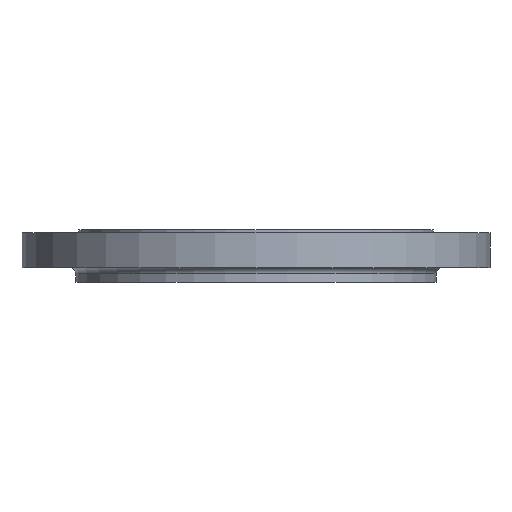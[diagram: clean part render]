
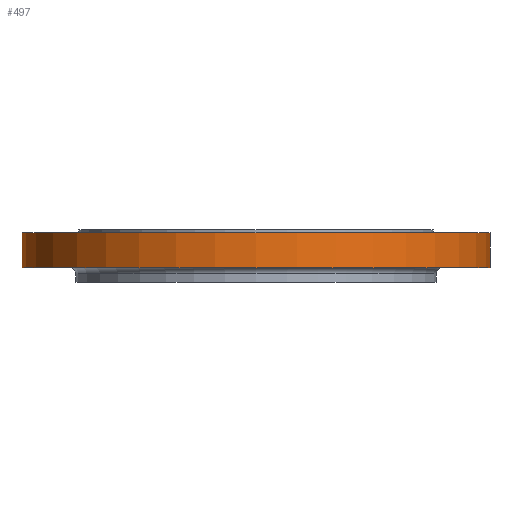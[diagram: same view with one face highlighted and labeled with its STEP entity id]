
A CAD part, front view. The second image highlights one B-rep face of the part: STEP entity #497.
In plain terms, the highlighted cylindrical face has radius 445 mm (diameter 890 mm), a partial arc.
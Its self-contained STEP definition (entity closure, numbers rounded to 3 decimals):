
#102 = CARTESIAN_POINT ( 'NONE',  ( -445., 0., -5.5 ) ) ;
#132 = CARTESIAN_POINT ( 'NONE',  ( -445., 0., -72. ) ) ;
#138 = DIRECTION ( 'NONE',  ( 0., 0., -1. ) ) ;
#274 = CARTESIAN_POINT ( 'NONE',  ( 445., 0., -5.5 ) ) ;
#435 = DIRECTION ( 'NONE',  ( 1., 0., 0. ) ) ;
#436 = DIRECTION ( 'NONE',  ( 0., 0., 1. ) ) ;
#438 = CARTESIAN_POINT ( 'NONE',  ( 0., 0., -72. ) ) ;
#473 = CARTESIAN_POINT ( 'NONE',  ( 445., 0., -72. ) ) ;
#480 = VECTOR ( 'NONE', #1453, 1000. ) ;
#484 = VECTOR ( 'NONE', #923, 1000. ) ;
#497 = ADVANCED_FACE ( 'NONE', ( #888 ), #885, .T. ) ;
#692 = CIRCLE ( 'NONE', #1940, 445. ) ;
#751 = CARTESIAN_POINT ( 'NONE',  ( 0., 0., -5.5 ) ) ;
#847 = LINE ( 'NONE', #910, #484 ) ;
#867 = AXIS2_PLACEMENT_3D ( 'NONE', #884, #881, #880 ) ;
#880 = DIRECTION ( 'NONE',  ( 1., 0., 0. ) ) ;
#881 = DIRECTION ( 'NONE',  ( 0., 0., 1. ) ) ;
#884 = CARTESIAN_POINT ( 'NONE',  ( 0., 0., -150. ) ) ;
#885 = CYLINDRICAL_SURFACE ( 'NONE', #867, 445. ) ;
#888 = FACE_OUTER_BOUND ( 'NONE', #1503, .T. ) ;
#910 = CARTESIAN_POINT ( 'NONE',  ( 445., 0., -150. ) ) ;
#923 = DIRECTION ( 'NONE',  ( 0., 0., 1. ) ) ;
#1060 = AXIS2_PLACEMENT_3D ( 'NONE', #438, #436, #435 ) ;
#1089 = CIRCLE ( 'NONE', #1060, 445. ) ;
#1268 = DIRECTION ( 'NONE',  ( -1., 0., 0. ) ) ;
#1284 = ORIENTED_EDGE ( 'NONE', *, *, #1984, .T. ) ;
#1285 = ORIENTED_EDGE ( 'NONE', *, *, #1864, .T. ) ;
#1286 = ORIENTED_EDGE ( 'NONE', *, *, #1429, .T. ) ;
#1287 = ORIENTED_EDGE ( 'NONE', *, *, #1861, .F. ) ;
#1333 = VERTEX_POINT ( 'NONE', #473 ) ;
#1429 = EDGE_CURVE ( 'NONE', #1704, #1333, #1089, .T. ) ;
#1453 = DIRECTION ( 'NONE',  ( 0., 0., 1. ) ) ;
#1503 = EDGE_LOOP ( 'NONE', ( #1287, #1286, #1285, #1284 ) ) ;
#1621 = VERTEX_POINT ( 'NONE', #274 ) ;
#1646 = CARTESIAN_POINT ( 'NONE',  ( -445., 0., -150. ) ) ;
#1704 = VERTEX_POINT ( 'NONE', #132 ) ;
#1730 = VERTEX_POINT ( 'NONE', #102 ) ;
#1861 = EDGE_CURVE ( 'NONE', #1704, #1730, #1928, .T. ) ;
#1864 = EDGE_CURVE ( 'NONE', #1333, #1621, #847, .T. ) ;
#1928 = LINE ( 'NONE', #1646, #480 ) ;
#1940 = AXIS2_PLACEMENT_3D ( 'NONE', #751, #138, #1268 ) ;
#1984 = EDGE_CURVE ( 'NONE', #1621, #1730, #692, .T. ) ;
